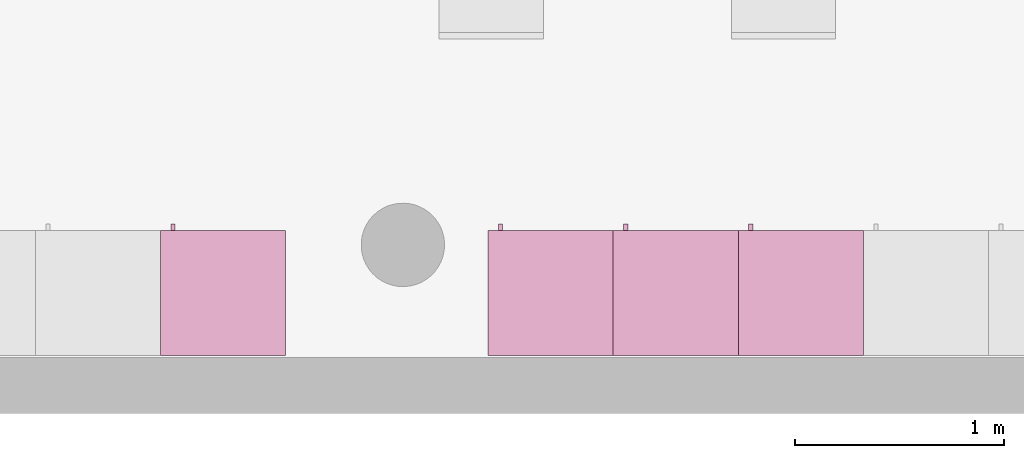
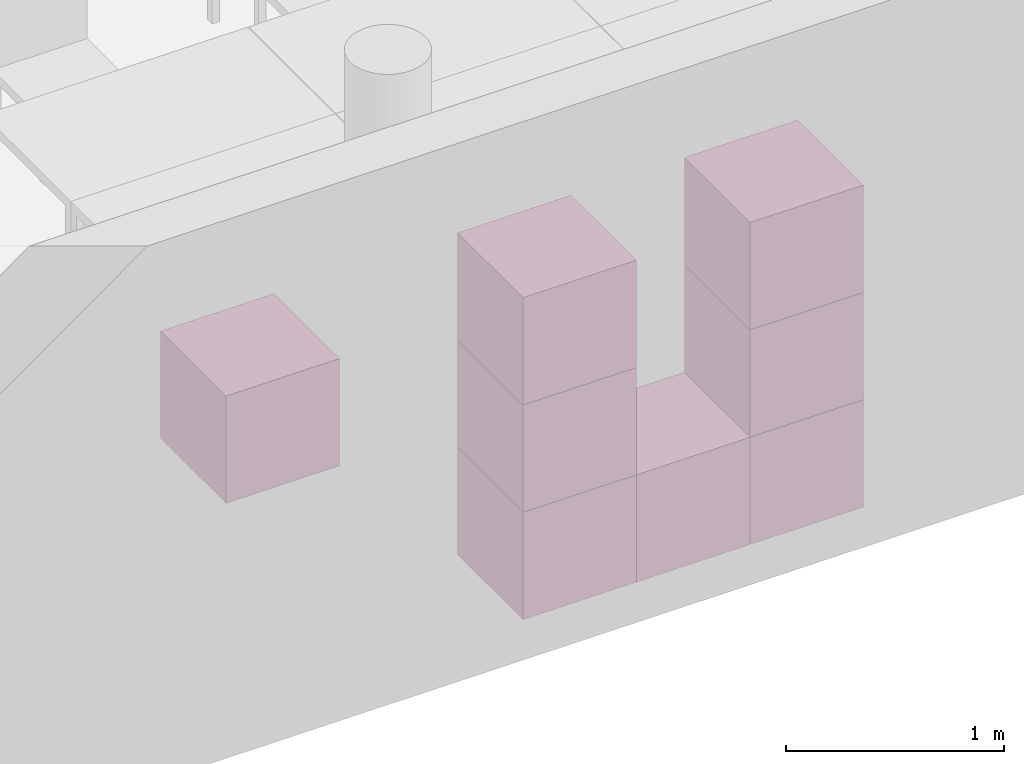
"""IFC4 building model written with IfcOpenShell, lengths in metres."""

from ifc_helpers import new_model, entity, si_unit, converted_unit, derived_unit, frame, origin, place, context, subcontext, project, spatial, faceted_brep, element, save


model = new_model("IFC4")

# Units and contexts
model_context = context("Model", 3, precision=1e-05, world=origin())
body_context = subcontext(model_context, "Body", "Model", "MODEL_VIEW")
ifc_project = project(units=[si_unit("LENGTHUNIT", "METRE"), si_unit("AREAUNIT", "SQUARE_METRE"), si_unit("VOLUMEUNIT", "CUBIC_METRE"), si_unit("MASSUNIT", "GRAM", prefix="KILO"), converted_unit("PLANEANGLEUNIT", "DEGREE", entity("IfcPlaneAngleMeasure", 0.0174532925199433), si_unit("PLANEANGLEUNIT", "RADIAN"), dimensions=[0, 0, 0, 0, 0, 0, 0]), derived_unit("THERMALTRANSMITTANCEUNIT", [(si_unit("POWERUNIT", "WATT"), 1), (si_unit("THERMODYNAMICTEMPERATUREUNIT", "KELVIN"), -1), (si_unit("LENGTHUNIT", "METRE"), -2)]), derived_unit("VOLUMETRICFLOWRATEUNIT", [(si_unit("LENGTHUNIT", "METRE"), 3), (converted_unit("TIMEUNIT", "hour", entity("IfcTimeMeasure", 3600.0), si_unit("TIMEUNIT", "SECOND"), dimensions=[0, 0, 1, 0, 0, 0, 0]), -1), (si_unit("LENGTHUNIT", "METRE"), -1)])], contexts=[model_context])

# Building, storeys
building_placement = place(None, origin())
building = spatial("IfcBuilding", under=ifc_project, at=building_placement, Name="HABITATGE PLURIFAMILIAR", CompositionType="ELEMENT")
storey_1_placement = place(building_placement, frame((0.0, 0.0, 15.28)))
storey_1 = spatial("IfcBuildingStorey", under=building, at=storey_1_placement, Name="PLANTA QUARTA", CompositionType="ELEMENT", Elevation=15.28)
storey_2_placement = place(storey_1_placement, frame((0.0, 0.0, 12.27)))
storey_2 = spatial("IfcBuildingStorey", under=storey_1, at=storey_2_placement, Name="NOU", CompositionType="PARTIAL")

# Furniture
furniture_1_placement = place(storey_2_placement, frame((402.59527037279, 13.1194598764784, -12.37)))
element("IfcFurniture", 1, at=furniture_1_placement, inside=storey_2, Name="Armai 60x60x60_P4", context=body_context, shape_type="Brep", body=[
    faceted_brep([(0.0, 0.6, 0.02), (0.0, 0.6, 0.0), (0.6, 0.6, 0.0), (0.6, 0.6, 0.02), (0.6, 0.0, 0.0), (0.6, 0.0, 0.02), (0.0, 0.0, 0.0), (0.0, 0.0, 0.02)], [[[0, 1, 2, 3]], [[3, 2, 4, 5]], [[5, 4, 6, 7]], [[7, 6, 1, 0]], [[0, 3, 5, 7]], [[1, 6, 4, 2]]], orient=[[False], [False], [False], [False], [False], [False]]),
    faceted_brep([(0.580000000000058, 0.0, 0.58), (0.580000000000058, 0.0200000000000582, 0.58), (0.580000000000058, 0.0200000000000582, 0.02), (0.580000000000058, 0.0, 0.02), (0.0200000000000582, 0.0200000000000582, 0.02), (0.0200000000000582, 0.0, 0.02), (0.0200000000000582, 0.0200000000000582, 0.58), (0.0200000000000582, 0.0, 0.58)], [[[0, 1, 2, 3]], [[3, 2, 4, 5]], [[5, 4, 6, 7]], [[7, 6, 1, 0]], [[0, 3, 5, 7]], [[1, 6, 4, 2]]], orient=[[False], [False], [False], [False], [False], [False]]),
    faceted_brep([(0.0200000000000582, 0.6, 0.58), (0.0, 0.6, 0.58), (0.0, 0.6, 0.02), (0.0200000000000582, 0.6, 0.02), (0.0, 0.0, 0.02), (0.0200000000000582, 0.0, 0.02), (0.0, 0.0, 0.58), (0.0200000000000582, 0.0, 0.58)], [[[0, 1, 2, 3]], [[3, 2, 4, 5]], [[5, 4, 6, 7]], [[7, 6, 1, 0]], [[0, 3, 5, 7]], [[1, 6, 4, 2]]], orient=[[False], [False], [False], [False], [False], [False]]),
    faceted_brep([(0.0, 0.58, 0.58), (0.0, 0.6, 0.58), (0.0, 0.6, 0.02), (0.0, 0.58, 0.02), (0.02, 0.6, 0.02), (0.02, 0.58, 0.02), (0.02, 0.6, 0.58), (0.02, 0.58, 0.58)], [[[0, 1, 2, 3]], [[3, 2, 4, 5]], [[5, 4, 6, 7]], [[7, 6, 1, 0]], [[0, 3, 5, 7]], [[1, 6, 4, 2]]], orient=[[False], [False], [False], [False], [False], [False]]),
    faceted_brep([(0.6, 0.6, 0.58), (0.58, 0.6, 0.58), (0.58, 0.6, 0.02), (0.6, 0.6, 0.02), (0.58, 0.0, 0.02), (0.6, 0.0, 0.02), (0.58, 0.0, 0.58), (0.6, 0.0, 0.58)], [[[0, 1, 2, 3]], [[3, 2, 4, 5]], [[5, 4, 6, 7]], [[7, 6, 1, 0]], [[0, 3, 5, 7]], [[1, 6, 4, 2]]], orient=[[False], [False], [False], [False], [False], [False]]),
    faceted_brep([(0.0, 0.600000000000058, 0.6), (0.0, 0.600000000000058, 0.58), (0.600000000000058, 0.600000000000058, 0.58), (0.600000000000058, 0.600000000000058, 0.6), (0.600000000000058, 0.0, 0.58), (0.600000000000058, 0.0, 0.6), (0.0, 0.0, 0.58), (0.0, 0.0, 0.6)], [[[0, 1, 2, 3]], [[3, 2, 4, 5]], [[5, 4, 6, 7]], [[7, 6, 1, 0]], [[0, 3, 5, 7]], [[1, 6, 4, 2]]], orient=[[False], [False], [False], [False], [False], [False]]),
    faceted_brep([(0.580000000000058, 0.580000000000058, 0.58), (0.580000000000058, 0.600000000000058, 0.58), (0.580000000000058, 0.600000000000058, 0.02), (0.580000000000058, 0.580000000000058, 0.02), (0.02, 0.600000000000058, 0.02), (0.02, 0.580000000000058, 0.02), (0.02, 0.600000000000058, 0.58), (0.02, 0.580000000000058, 0.58)], [[[0, 1, 2, 3]], [[3, 2, 4, 5]], [[5, 4, 6, 7]], [[7, 6, 1, 0]], [[0, 3, 5, 7]], [[1, 6, 4, 2]]], orient=[[False], [False], [False], [False], [False], [False]]),
    faceted_brep([(0.0700000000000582, 0.600000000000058, 0.358064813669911), (0.0700000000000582, 0.630000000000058, 0.358064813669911), (0.0700000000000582, 0.630000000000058, 0.258064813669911), (0.0700000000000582, 0.600000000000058, 0.258064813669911), (0.0500000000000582, 0.630000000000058, 0.258064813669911), (0.0500000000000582, 0.600000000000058, 0.258064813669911), (0.0500000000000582, 0.630000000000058, 0.358064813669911), (0.0500000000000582, 0.600000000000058, 0.358064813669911)], [[[0, 1, 2, 3]], [[3, 2, 4, 5]], [[5, 4, 6, 7]], [[7, 6, 1, 0]], [[0, 3, 5, 7]], [[1, 6, 4, 2]]], orient=[[False], [False], [False], [False], [False], [False]]),
])
furniture_2_placement = place(storey_2_placement, frame((402.59527037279, 13.1194598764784, -11.77)))
element("IfcFurniture", 2, at=furniture_2_placement, inside=storey_2, Name="Armai 60x60x60_P4", context=body_context, shape_type="Brep", body=[
    faceted_brep([(0.0, 0.6, 0.02), (0.0, 0.6, 0.0), (0.6, 0.6, 0.0), (0.6, 0.6, 0.02), (0.6, 0.0, 0.0), (0.6, 0.0, 0.02), (0.0, 0.0, 0.0), (0.0, 0.0, 0.02)], [[[0, 1, 2, 3]], [[3, 2, 4, 5]], [[5, 4, 6, 7]], [[7, 6, 1, 0]], [[0, 3, 5, 7]], [[1, 6, 4, 2]]], orient=[[False], [False], [False], [False], [False], [False]]),
    faceted_brep([(0.580000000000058, 0.0, 0.58), (0.580000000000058, 0.0200000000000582, 0.58), (0.580000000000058, 0.0200000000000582, 0.02), (0.580000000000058, 0.0, 0.02), (0.0200000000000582, 0.0200000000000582, 0.02), (0.0200000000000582, 0.0, 0.02), (0.0200000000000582, 0.0200000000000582, 0.58), (0.0200000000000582, 0.0, 0.58)], [[[0, 1, 2, 3]], [[3, 2, 4, 5]], [[5, 4, 6, 7]], [[7, 6, 1, 0]], [[0, 3, 5, 7]], [[1, 6, 4, 2]]], orient=[[False], [False], [False], [False], [False], [False]]),
    faceted_brep([(0.0200000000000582, 0.6, 0.58), (0.0, 0.6, 0.58), (0.0, 0.6, 0.02), (0.0200000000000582, 0.6, 0.02), (0.0, 0.0, 0.02), (0.0200000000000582, 0.0, 0.02), (0.0, 0.0, 0.58), (0.0200000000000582, 0.0, 0.58)], [[[0, 1, 2, 3]], [[3, 2, 4, 5]], [[5, 4, 6, 7]], [[7, 6, 1, 0]], [[0, 3, 5, 7]], [[1, 6, 4, 2]]], orient=[[False], [False], [False], [False], [False], [False]]),
    faceted_brep([(0.0, 0.58, 0.58), (0.0, 0.6, 0.58), (0.0, 0.6, 0.02), (0.0, 0.58, 0.02), (0.02, 0.6, 0.02), (0.02, 0.58, 0.02), (0.02, 0.6, 0.58), (0.02, 0.58, 0.58)], [[[0, 1, 2, 3]], [[3, 2, 4, 5]], [[5, 4, 6, 7]], [[7, 6, 1, 0]], [[0, 3, 5, 7]], [[1, 6, 4, 2]]], orient=[[False], [False], [False], [False], [False], [False]]),
    faceted_brep([(0.6, 0.6, 0.58), (0.58, 0.6, 0.58), (0.58, 0.6, 0.02), (0.6, 0.6, 0.02), (0.58, 0.0, 0.02), (0.6, 0.0, 0.02), (0.58, 0.0, 0.58), (0.6, 0.0, 0.58)], [[[0, 1, 2, 3]], [[3, 2, 4, 5]], [[5, 4, 6, 7]], [[7, 6, 1, 0]], [[0, 3, 5, 7]], [[1, 6, 4, 2]]], orient=[[False], [False], [False], [False], [False], [False]]),
    faceted_brep([(0.0, 0.600000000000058, 0.6), (0.0, 0.600000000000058, 0.58), (0.600000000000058, 0.600000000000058, 0.58), (0.600000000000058, 0.600000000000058, 0.6), (0.600000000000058, 0.0, 0.58), (0.600000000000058, 0.0, 0.6), (0.0, 0.0, 0.58), (0.0, 0.0, 0.6)], [[[0, 1, 2, 3]], [[3, 2, 4, 5]], [[5, 4, 6, 7]], [[7, 6, 1, 0]], [[0, 3, 5, 7]], [[1, 6, 4, 2]]], orient=[[False], [False], [False], [False], [False], [False]]),
    faceted_brep([(0.580000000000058, 0.580000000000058, 0.58), (0.580000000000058, 0.600000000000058, 0.58), (0.580000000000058, 0.600000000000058, 0.02), (0.580000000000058, 0.580000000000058, 0.02), (0.02, 0.600000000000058, 0.02), (0.02, 0.580000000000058, 0.02), (0.02, 0.600000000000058, 0.58), (0.02, 0.580000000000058, 0.58)], [[[0, 1, 2, 3]], [[3, 2, 4, 5]], [[5, 4, 6, 7]], [[7, 6, 1, 0]], [[0, 3, 5, 7]], [[1, 6, 4, 2]]], orient=[[False], [False], [False], [False], [False], [False]]),
    faceted_brep([(0.0700000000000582, 0.600000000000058, 0.358064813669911), (0.0700000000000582, 0.630000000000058, 0.358064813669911), (0.0700000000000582, 0.630000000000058, 0.258064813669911), (0.0700000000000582, 0.600000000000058, 0.258064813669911), (0.0500000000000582, 0.630000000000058, 0.258064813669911), (0.0500000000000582, 0.600000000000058, 0.258064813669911), (0.0500000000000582, 0.630000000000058, 0.358064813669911), (0.0500000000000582, 0.600000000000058, 0.358064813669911)], [[[0, 1, 2, 3]], [[3, 2, 4, 5]], [[5, 4, 6, 7]], [[7, 6, 1, 0]], [[0, 3, 5, 7]], [[1, 6, 4, 2]]], orient=[[False], [False], [False], [False], [False], [False]]),
])
furniture_3_placement = place(storey_2_placement, frame((402.59527037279, 13.1194598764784, -11.17)))
element("IfcFurniture", 3, at=furniture_3_placement, inside=storey_2, Name="Armai 60x60x60_P4", context=body_context, shape_type="Brep", body=[
    faceted_brep([(0.0, 0.6, 0.02), (0.0, 0.6, 0.0), (0.6, 0.6, 0.0), (0.6, 0.6, 0.02), (0.6, 0.0, 0.0), (0.6, 0.0, 0.02), (0.0, 0.0, 0.0), (0.0, 0.0, 0.02)], [[[0, 1, 2, 3]], [[3, 2, 4, 5]], [[5, 4, 6, 7]], [[7, 6, 1, 0]], [[0, 3, 5, 7]], [[1, 6, 4, 2]]], orient=[[False], [False], [False], [False], [False], [False]]),
    faceted_brep([(0.580000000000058, 0.0, 0.58), (0.580000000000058, 0.0200000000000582, 0.58), (0.580000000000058, 0.0200000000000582, 0.02), (0.580000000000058, 0.0, 0.02), (0.0200000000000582, 0.0200000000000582, 0.02), (0.0200000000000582, 0.0, 0.02), (0.0200000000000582, 0.0200000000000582, 0.58), (0.0200000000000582, 0.0, 0.58)], [[[0, 1, 2, 3]], [[3, 2, 4, 5]], [[5, 4, 6, 7]], [[7, 6, 1, 0]], [[0, 3, 5, 7]], [[1, 6, 4, 2]]], orient=[[False], [False], [False], [False], [False], [False]]),
    faceted_brep([(0.0200000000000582, 0.6, 0.58), (0.0, 0.6, 0.58), (0.0, 0.6, 0.02), (0.0200000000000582, 0.6, 0.02), (0.0, 0.0, 0.02), (0.0200000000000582, 0.0, 0.02), (0.0, 0.0, 0.58), (0.0200000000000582, 0.0, 0.58)], [[[0, 1, 2, 3]], [[3, 2, 4, 5]], [[5, 4, 6, 7]], [[7, 6, 1, 0]], [[0, 3, 5, 7]], [[1, 6, 4, 2]]], orient=[[False], [False], [False], [False], [False], [False]]),
    faceted_brep([(0.0, 0.58, 0.58), (0.0, 0.6, 0.58), (0.0, 0.6, 0.02), (0.0, 0.58, 0.02), (0.02, 0.6, 0.02), (0.02, 0.58, 0.02), (0.02, 0.6, 0.58), (0.02, 0.58, 0.58)], [[[0, 1, 2, 3]], [[3, 2, 4, 5]], [[5, 4, 6, 7]], [[7, 6, 1, 0]], [[0, 3, 5, 7]], [[1, 6, 4, 2]]], orient=[[False], [False], [False], [False], [False], [False]]),
    faceted_brep([(0.6, 0.6, 0.58), (0.58, 0.6, 0.58), (0.58, 0.6, 0.02), (0.6, 0.6, 0.02), (0.58, 0.0, 0.02), (0.6, 0.0, 0.02), (0.58, 0.0, 0.58), (0.6, 0.0, 0.58)], [[[0, 1, 2, 3]], [[3, 2, 4, 5]], [[5, 4, 6, 7]], [[7, 6, 1, 0]], [[0, 3, 5, 7]], [[1, 6, 4, 2]]], orient=[[False], [False], [False], [False], [False], [False]]),
    faceted_brep([(0.0, 0.600000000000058, 0.6), (0.0, 0.600000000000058, 0.58), (0.600000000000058, 0.600000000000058, 0.58), (0.600000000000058, 0.600000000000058, 0.6), (0.600000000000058, 0.0, 0.58), (0.600000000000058, 0.0, 0.6), (0.0, 0.0, 0.58), (0.0, 0.0, 0.6)], [[[0, 1, 2, 3]], [[3, 2, 4, 5]], [[5, 4, 6, 7]], [[7, 6, 1, 0]], [[0, 3, 5, 7]], [[1, 6, 4, 2]]], orient=[[False], [False], [False], [False], [False], [False]]),
    faceted_brep([(0.580000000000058, 0.580000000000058, 0.58), (0.580000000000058, 0.600000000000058, 0.58), (0.580000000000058, 0.600000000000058, 0.02), (0.580000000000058, 0.580000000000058, 0.02), (0.02, 0.600000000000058, 0.02), (0.02, 0.580000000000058, 0.02), (0.02, 0.600000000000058, 0.58), (0.02, 0.580000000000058, 0.58)], [[[0, 1, 2, 3]], [[3, 2, 4, 5]], [[5, 4, 6, 7]], [[7, 6, 1, 0]], [[0, 3, 5, 7]], [[1, 6, 4, 2]]], orient=[[False], [False], [False], [False], [False], [False]]),
    faceted_brep([(0.0700000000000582, 0.600000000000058, 0.358064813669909), (0.0700000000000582, 0.630000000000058, 0.358064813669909), (0.0700000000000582, 0.630000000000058, 0.258064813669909), (0.0700000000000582, 0.600000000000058, 0.258064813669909), (0.0500000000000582, 0.630000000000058, 0.258064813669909), (0.0500000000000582, 0.600000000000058, 0.258064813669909), (0.0500000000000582, 0.630000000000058, 0.358064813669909), (0.0500000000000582, 0.600000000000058, 0.358064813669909)], [[[0, 1, 2, 3]], [[3, 2, 4, 5]], [[5, 4, 6, 7]], [[7, 6, 1, 0]], [[0, 3, 5, 7]], [[1, 6, 4, 2]]], orient=[[False], [False], [False], [False], [False], [False]]),
])
furniture_4_placement = place(storey_2_placement, frame((401.99527037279, 13.1194598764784, -12.37)))
element("IfcFurniture", 4, at=furniture_4_placement, inside=storey_2, Name="Armai 60x60x60_P4", context=body_context, shape_type="Brep", body=[
    faceted_brep([(0.0, 0.6, 0.02), (0.0, 0.6, 0.0), (0.6, 0.6, 0.0), (0.6, 0.6, 0.02), (0.6, 0.0, 0.0), (0.6, 0.0, 0.02), (0.0, 0.0, 0.0), (0.0, 0.0, 0.02)], [[[0, 1, 2, 3]], [[3, 2, 4, 5]], [[5, 4, 6, 7]], [[7, 6, 1, 0]], [[0, 3, 5, 7]], [[1, 6, 4, 2]]], orient=[[False], [False], [False], [False], [False], [False]]),
    faceted_brep([(0.580000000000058, 0.0, 0.58), (0.580000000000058, 0.0200000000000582, 0.58), (0.580000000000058, 0.0200000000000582, 0.02), (0.580000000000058, 0.0, 0.02), (0.0200000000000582, 0.0200000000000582, 0.02), (0.0200000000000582, 0.0, 0.02), (0.0200000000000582, 0.0200000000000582, 0.58), (0.0200000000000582, 0.0, 0.58)], [[[0, 1, 2, 3]], [[3, 2, 4, 5]], [[5, 4, 6, 7]], [[7, 6, 1, 0]], [[0, 3, 5, 7]], [[1, 6, 4, 2]]], orient=[[False], [False], [False], [False], [False], [False]]),
    faceted_brep([(0.0200000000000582, 0.6, 0.58), (0.0, 0.6, 0.58), (0.0, 0.6, 0.02), (0.0200000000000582, 0.6, 0.02), (0.0, 0.0, 0.02), (0.0200000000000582, 0.0, 0.02), (0.0, 0.0, 0.58), (0.0200000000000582, 0.0, 0.58)], [[[0, 1, 2, 3]], [[3, 2, 4, 5]], [[5, 4, 6, 7]], [[7, 6, 1, 0]], [[0, 3, 5, 7]], [[1, 6, 4, 2]]], orient=[[False], [False], [False], [False], [False], [False]]),
    faceted_brep([(0.0, 0.58, 0.58), (0.0, 0.6, 0.58), (0.0, 0.6, 0.02), (0.0, 0.58, 0.02), (0.02, 0.6, 0.02), (0.02, 0.58, 0.02), (0.02, 0.6, 0.58), (0.02, 0.58, 0.58)], [[[0, 1, 2, 3]], [[3, 2, 4, 5]], [[5, 4, 6, 7]], [[7, 6, 1, 0]], [[0, 3, 5, 7]], [[1, 6, 4, 2]]], orient=[[False], [False], [False], [False], [False], [False]]),
    faceted_brep([(0.6, 0.6, 0.58), (0.58, 0.6, 0.58), (0.58, 0.6, 0.02), (0.6, 0.6, 0.02), (0.58, 0.0, 0.02), (0.6, 0.0, 0.02), (0.58, 0.0, 0.58), (0.6, 0.0, 0.58)], [[[0, 1, 2, 3]], [[3, 2, 4, 5]], [[5, 4, 6, 7]], [[7, 6, 1, 0]], [[0, 3, 5, 7]], [[1, 6, 4, 2]]], orient=[[False], [False], [False], [False], [False], [False]]),
    faceted_brep([(0.0, 0.600000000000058, 0.6), (0.0, 0.600000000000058, 0.58), (0.600000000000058, 0.600000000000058, 0.58), (0.600000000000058, 0.600000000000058, 0.6), (0.600000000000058, 0.0, 0.58), (0.600000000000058, 0.0, 0.6), (0.0, 0.0, 0.58), (0.0, 0.0, 0.6)], [[[0, 1, 2, 3]], [[3, 2, 4, 5]], [[5, 4, 6, 7]], [[7, 6, 1, 0]], [[0, 3, 5, 7]], [[1, 6, 4, 2]]], orient=[[False], [False], [False], [False], [False], [False]]),
    faceted_brep([(0.580000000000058, 0.580000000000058, 0.58), (0.580000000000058, 0.600000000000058, 0.58), (0.580000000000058, 0.600000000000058, 0.02), (0.580000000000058, 0.580000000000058, 0.02), (0.02, 0.600000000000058, 0.02), (0.02, 0.580000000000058, 0.02), (0.02, 0.600000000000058, 0.58), (0.02, 0.580000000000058, 0.58)], [[[0, 1, 2, 3]], [[3, 2, 4, 5]], [[5, 4, 6, 7]], [[7, 6, 1, 0]], [[0, 3, 5, 7]], [[1, 6, 4, 2]]], orient=[[False], [False], [False], [False], [False], [False]]),
    faceted_brep([(0.0700000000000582, 0.600000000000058, 0.358064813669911), (0.0700000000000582, 0.630000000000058, 0.358064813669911), (0.0700000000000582, 0.630000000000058, 0.258064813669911), (0.0700000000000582, 0.600000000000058, 0.258064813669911), (0.0500000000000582, 0.630000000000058, 0.258064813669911), (0.0500000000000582, 0.600000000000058, 0.258064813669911), (0.0500000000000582, 0.630000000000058, 0.358064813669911), (0.0500000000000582, 0.600000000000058, 0.358064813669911)], [[[0, 1, 2, 3]], [[3, 2, 4, 5]], [[5, 4, 6, 7]], [[7, 6, 1, 0]], [[0, 3, 5, 7]], [[1, 6, 4, 2]]], orient=[[False], [False], [False], [False], [False], [False]]),
])
furniture_5_placement = place(storey_2_placement, frame((401.39527037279, 13.1194598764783, -12.37)))
element("IfcFurniture", 5, at=furniture_5_placement, inside=storey_2, Name="Armai 60x60x60_P4", context=body_context, shape_type="Brep", body=[
    faceted_brep([(0.0, 0.6, 0.02), (0.0, 0.6, 0.0), (0.6, 0.6, 0.0), (0.6, 0.6, 0.02), (0.6, 0.0, 0.0), (0.6, 0.0, 0.02), (0.0, 0.0, 0.0), (0.0, 0.0, 0.02)], [[[0, 1, 2, 3]], [[3, 2, 4, 5]], [[5, 4, 6, 7]], [[7, 6, 1, 0]], [[0, 3, 5, 7]], [[1, 6, 4, 2]]], orient=[[False], [False], [False], [False], [False], [False]]),
    faceted_brep([(0.580000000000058, 0.0, 0.58), (0.580000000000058, 0.0200000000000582, 0.58), (0.580000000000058, 0.0200000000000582, 0.02), (0.580000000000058, 0.0, 0.02), (0.0200000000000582, 0.0200000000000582, 0.02), (0.0200000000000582, 0.0, 0.02), (0.0200000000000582, 0.0200000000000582, 0.58), (0.0200000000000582, 0.0, 0.58)], [[[0, 1, 2, 3]], [[3, 2, 4, 5]], [[5, 4, 6, 7]], [[7, 6, 1, 0]], [[0, 3, 5, 7]], [[1, 6, 4, 2]]], orient=[[False], [False], [False], [False], [False], [False]]),
    faceted_brep([(0.0200000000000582, 0.6, 0.58), (0.0, 0.6, 0.58), (0.0, 0.6, 0.02), (0.0200000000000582, 0.6, 0.02), (0.0, 0.0, 0.02), (0.0200000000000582, 0.0, 0.02), (0.0, 0.0, 0.58), (0.0200000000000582, 0.0, 0.58)], [[[0, 1, 2, 3]], [[3, 2, 4, 5]], [[5, 4, 6, 7]], [[7, 6, 1, 0]], [[0, 3, 5, 7]], [[1, 6, 4, 2]]], orient=[[False], [False], [False], [False], [False], [False]]),
    faceted_brep([(0.0, 0.58, 0.58), (0.0, 0.6, 0.58), (0.0, 0.6, 0.02), (0.0, 0.58, 0.02), (0.02, 0.6, 0.02), (0.02, 0.58, 0.02), (0.02, 0.6, 0.58), (0.02, 0.58, 0.58)], [[[0, 1, 2, 3]], [[3, 2, 4, 5]], [[5, 4, 6, 7]], [[7, 6, 1, 0]], [[0, 3, 5, 7]], [[1, 6, 4, 2]]], orient=[[False], [False], [False], [False], [False], [False]]),
    faceted_brep([(0.6, 0.6, 0.58), (0.58, 0.6, 0.58), (0.58, 0.6, 0.02), (0.6, 0.6, 0.02), (0.58, 0.0, 0.02), (0.6, 0.0, 0.02), (0.58, 0.0, 0.58), (0.6, 0.0, 0.58)], [[[0, 1, 2, 3]], [[3, 2, 4, 5]], [[5, 4, 6, 7]], [[7, 6, 1, 0]], [[0, 3, 5, 7]], [[1, 6, 4, 2]]], orient=[[False], [False], [False], [False], [False], [False]]),
    faceted_brep([(0.0, 0.600000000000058, 0.6), (0.0, 0.600000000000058, 0.58), (0.600000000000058, 0.600000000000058, 0.58), (0.600000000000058, 0.600000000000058, 0.6), (0.600000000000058, 0.0, 0.58), (0.600000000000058, 0.0, 0.6), (0.0, 0.0, 0.58), (0.0, 0.0, 0.6)], [[[0, 1, 2, 3]], [[3, 2, 4, 5]], [[5, 4, 6, 7]], [[7, 6, 1, 0]], [[0, 3, 5, 7]], [[1, 6, 4, 2]]], orient=[[False], [False], [False], [False], [False], [False]]),
    faceted_brep([(0.580000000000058, 0.580000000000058, 0.58), (0.580000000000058, 0.600000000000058, 0.58), (0.580000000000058, 0.600000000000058, 0.02), (0.580000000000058, 0.580000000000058, 0.02), (0.02, 0.600000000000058, 0.02), (0.02, 0.580000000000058, 0.02), (0.02, 0.600000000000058, 0.58), (0.02, 0.580000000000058, 0.58)], [[[0, 1, 2, 3]], [[3, 2, 4, 5]], [[5, 4, 6, 7]], [[7, 6, 1, 0]], [[0, 3, 5, 7]], [[1, 6, 4, 2]]], orient=[[False], [False], [False], [False], [False], [False]]),
    faceted_brep([(0.0700000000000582, 0.600000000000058, 0.358064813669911), (0.0700000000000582, 0.630000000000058, 0.358064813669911), (0.0700000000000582, 0.630000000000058, 0.258064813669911), (0.0700000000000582, 0.600000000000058, 0.258064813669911), (0.0500000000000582, 0.630000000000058, 0.258064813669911), (0.0500000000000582, 0.600000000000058, 0.258064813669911), (0.0500000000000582, 0.630000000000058, 0.358064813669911), (0.0500000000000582, 0.600000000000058, 0.358064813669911)], [[[0, 1, 2, 3]], [[3, 2, 4, 5]], [[5, 4, 6, 7]], [[7, 6, 1, 0]], [[0, 3, 5, 7]], [[1, 6, 4, 2]]], orient=[[False], [False], [False], [False], [False], [False]]),
])
furniture_6_placement = place(storey_2_placement, frame((401.39527037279, 13.1194598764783, -11.77)))
element("IfcFurniture", 6, at=furniture_6_placement, inside=storey_2, Name="Armai 60x60x60_P4", context=body_context, shape_type="Brep", body=[
    faceted_brep([(0.0, 0.6, 0.02), (0.0, 0.6, 0.0), (0.6, 0.6, 0.0), (0.6, 0.6, 0.02), (0.6, 0.0, 0.0), (0.6, 0.0, 0.02), (0.0, 0.0, 0.0), (0.0, 0.0, 0.02)], [[[0, 1, 2, 3]], [[3, 2, 4, 5]], [[5, 4, 6, 7]], [[7, 6, 1, 0]], [[0, 3, 5, 7]], [[1, 6, 4, 2]]], orient=[[False], [False], [False], [False], [False], [False]]),
    faceted_brep([(0.580000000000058, 0.0, 0.58), (0.580000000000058, 0.0200000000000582, 0.58), (0.580000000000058, 0.0200000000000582, 0.02), (0.580000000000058, 0.0, 0.02), (0.0200000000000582, 0.0200000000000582, 0.02), (0.0200000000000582, 0.0, 0.02), (0.0200000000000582, 0.0200000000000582, 0.58), (0.0200000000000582, 0.0, 0.58)], [[[0, 1, 2, 3]], [[3, 2, 4, 5]], [[5, 4, 6, 7]], [[7, 6, 1, 0]], [[0, 3, 5, 7]], [[1, 6, 4, 2]]], orient=[[False], [False], [False], [False], [False], [False]]),
    faceted_brep([(0.0200000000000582, 0.6, 0.58), (0.0, 0.6, 0.58), (0.0, 0.6, 0.02), (0.0200000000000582, 0.6, 0.02), (0.0, 0.0, 0.02), (0.0200000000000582, 0.0, 0.02), (0.0, 0.0, 0.58), (0.0200000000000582, 0.0, 0.58)], [[[0, 1, 2, 3]], [[3, 2, 4, 5]], [[5, 4, 6, 7]], [[7, 6, 1, 0]], [[0, 3, 5, 7]], [[1, 6, 4, 2]]], orient=[[False], [False], [False], [False], [False], [False]]),
    faceted_brep([(0.0, 0.58, 0.58), (0.0, 0.6, 0.58), (0.0, 0.6, 0.02), (0.0, 0.58, 0.02), (0.02, 0.6, 0.02), (0.02, 0.58, 0.02), (0.02, 0.6, 0.58), (0.02, 0.58, 0.58)], [[[0, 1, 2, 3]], [[3, 2, 4, 5]], [[5, 4, 6, 7]], [[7, 6, 1, 0]], [[0, 3, 5, 7]], [[1, 6, 4, 2]]], orient=[[False], [False], [False], [False], [False], [False]]),
    faceted_brep([(0.6, 0.6, 0.58), (0.58, 0.6, 0.58), (0.58, 0.6, 0.02), (0.6, 0.6, 0.02), (0.58, 0.0, 0.02), (0.6, 0.0, 0.02), (0.58, 0.0, 0.58), (0.6, 0.0, 0.58)], [[[0, 1, 2, 3]], [[3, 2, 4, 5]], [[5, 4, 6, 7]], [[7, 6, 1, 0]], [[0, 3, 5, 7]], [[1, 6, 4, 2]]], orient=[[False], [False], [False], [False], [False], [False]]),
    faceted_brep([(0.0, 0.600000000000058, 0.6), (0.0, 0.600000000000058, 0.58), (0.600000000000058, 0.600000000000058, 0.58), (0.600000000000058, 0.600000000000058, 0.6), (0.600000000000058, 0.0, 0.58), (0.600000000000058, 0.0, 0.6), (0.0, 0.0, 0.58), (0.0, 0.0, 0.6)], [[[0, 1, 2, 3]], [[3, 2, 4, 5]], [[5, 4, 6, 7]], [[7, 6, 1, 0]], [[0, 3, 5, 7]], [[1, 6, 4, 2]]], orient=[[False], [False], [False], [False], [False], [False]]),
    faceted_brep([(0.580000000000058, 0.580000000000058, 0.58), (0.580000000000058, 0.600000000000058, 0.58), (0.580000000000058, 0.600000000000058, 0.02), (0.580000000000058, 0.580000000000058, 0.02), (0.02, 0.600000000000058, 0.02), (0.02, 0.580000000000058, 0.02), (0.02, 0.600000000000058, 0.58), (0.02, 0.580000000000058, 0.58)], [[[0, 1, 2, 3]], [[3, 2, 4, 5]], [[5, 4, 6, 7]], [[7, 6, 1, 0]], [[0, 3, 5, 7]], [[1, 6, 4, 2]]], orient=[[False], [False], [False], [False], [False], [False]]),
    faceted_brep([(0.0700000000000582, 0.600000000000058, 0.358064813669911), (0.0700000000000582, 0.630000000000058, 0.358064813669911), (0.0700000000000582, 0.630000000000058, 0.258064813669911), (0.0700000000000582, 0.600000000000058, 0.258064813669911), (0.0500000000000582, 0.630000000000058, 0.258064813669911), (0.0500000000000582, 0.600000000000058, 0.258064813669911), (0.0500000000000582, 0.630000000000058, 0.358064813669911), (0.0500000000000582, 0.600000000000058, 0.358064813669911)], [[[0, 1, 2, 3]], [[3, 2, 4, 5]], [[5, 4, 6, 7]], [[7, 6, 1, 0]], [[0, 3, 5, 7]], [[1, 6, 4, 2]]], orient=[[False], [False], [False], [False], [False], [False]]),
])
furniture_7_placement = place(storey_2_placement, frame((401.39527037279, 13.1194598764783, -11.17)))
element("IfcFurniture", 7, at=furniture_7_placement, inside=storey_2, Name="Armai 60x60x60_P4", context=body_context, shape_type="Brep", body=[
    faceted_brep([(0.0, 0.6, 0.02), (0.0, 0.6, 0.0), (0.6, 0.6, 0.0), (0.6, 0.6, 0.02), (0.6, 0.0, 0.0), (0.6, 0.0, 0.02), (0.0, 0.0, 0.0), (0.0, 0.0, 0.02)], [[[0, 1, 2, 3]], [[3, 2, 4, 5]], [[5, 4, 6, 7]], [[7, 6, 1, 0]], [[0, 3, 5, 7]], [[1, 6, 4, 2]]], orient=[[False], [False], [False], [False], [False], [False]]),
    faceted_brep([(0.580000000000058, 0.0, 0.58), (0.580000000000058, 0.0200000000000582, 0.58), (0.580000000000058, 0.0200000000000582, 0.02), (0.580000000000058, 0.0, 0.02), (0.0200000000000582, 0.0200000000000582, 0.02), (0.0200000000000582, 0.0, 0.02), (0.0200000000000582, 0.0200000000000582, 0.58), (0.0200000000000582, 0.0, 0.58)], [[[0, 1, 2, 3]], [[3, 2, 4, 5]], [[5, 4, 6, 7]], [[7, 6, 1, 0]], [[0, 3, 5, 7]], [[1, 6, 4, 2]]], orient=[[False], [False], [False], [False], [False], [False]]),
    faceted_brep([(0.0200000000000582, 0.6, 0.58), (0.0, 0.6, 0.58), (0.0, 0.6, 0.02), (0.0200000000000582, 0.6, 0.02), (0.0, 0.0, 0.02), (0.0200000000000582, 0.0, 0.02), (0.0, 0.0, 0.58), (0.0200000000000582, 0.0, 0.58)], [[[0, 1, 2, 3]], [[3, 2, 4, 5]], [[5, 4, 6, 7]], [[7, 6, 1, 0]], [[0, 3, 5, 7]], [[1, 6, 4, 2]]], orient=[[False], [False], [False], [False], [False], [False]]),
    faceted_brep([(0.0, 0.58, 0.58), (0.0, 0.6, 0.58), (0.0, 0.6, 0.02), (0.0, 0.58, 0.02), (0.02, 0.6, 0.02), (0.02, 0.58, 0.02), (0.02, 0.6, 0.58), (0.02, 0.58, 0.58)], [[[0, 1, 2, 3]], [[3, 2, 4, 5]], [[5, 4, 6, 7]], [[7, 6, 1, 0]], [[0, 3, 5, 7]], [[1, 6, 4, 2]]], orient=[[False], [False], [False], [False], [False], [False]]),
    faceted_brep([(0.6, 0.6, 0.58), (0.58, 0.6, 0.58), (0.58, 0.6, 0.02), (0.6, 0.6, 0.02), (0.58, 0.0, 0.02), (0.6, 0.0, 0.02), (0.58, 0.0, 0.58), (0.6, 0.0, 0.58)], [[[0, 1, 2, 3]], [[3, 2, 4, 5]], [[5, 4, 6, 7]], [[7, 6, 1, 0]], [[0, 3, 5, 7]], [[1, 6, 4, 2]]], orient=[[False], [False], [False], [False], [False], [False]]),
    faceted_brep([(0.0, 0.600000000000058, 0.6), (0.0, 0.600000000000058, 0.58), (0.600000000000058, 0.600000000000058, 0.58), (0.600000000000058, 0.600000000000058, 0.6), (0.600000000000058, 0.0, 0.58), (0.600000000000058, 0.0, 0.6), (0.0, 0.0, 0.58), (0.0, 0.0, 0.6)], [[[0, 1, 2, 3]], [[3, 2, 4, 5]], [[5, 4, 6, 7]], [[7, 6, 1, 0]], [[0, 3, 5, 7]], [[1, 6, 4, 2]]], orient=[[False], [False], [False], [False], [False], [False]]),
    faceted_brep([(0.580000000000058, 0.580000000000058, 0.58), (0.580000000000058, 0.600000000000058, 0.58), (0.580000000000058, 0.600000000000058, 0.02), (0.580000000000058, 0.580000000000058, 0.02), (0.02, 0.600000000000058, 0.02), (0.02, 0.580000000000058, 0.02), (0.02, 0.600000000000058, 0.58), (0.02, 0.580000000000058, 0.58)], [[[0, 1, 2, 3]], [[3, 2, 4, 5]], [[5, 4, 6, 7]], [[7, 6, 1, 0]], [[0, 3, 5, 7]], [[1, 6, 4, 2]]], orient=[[False], [False], [False], [False], [False], [False]]),
    faceted_brep([(0.0700000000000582, 0.600000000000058, 0.358064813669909), (0.0700000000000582, 0.630000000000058, 0.358064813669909), (0.0700000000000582, 0.630000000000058, 0.258064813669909), (0.0700000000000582, 0.600000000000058, 0.258064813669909), (0.0500000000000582, 0.630000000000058, 0.258064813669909), (0.0500000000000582, 0.600000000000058, 0.258064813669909), (0.0500000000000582, 0.630000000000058, 0.358064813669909), (0.0500000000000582, 0.600000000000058, 0.358064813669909)], [[[0, 1, 2, 3]], [[3, 2, 4, 5]], [[5, 4, 6, 7]], [[7, 6, 1, 0]], [[0, 3, 5, 7]], [[1, 6, 4, 2]]], orient=[[False], [False], [False], [False], [False], [False]]),
])
furniture_8_placement = place(storey_2_placement, frame((399.82527037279, 13.1194598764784, -11.17)))
element("IfcFurniture", 8, at=furniture_8_placement, inside=storey_2, Name="Armai 60x60x60_P4", context=body_context, shape_type="Brep", body=[
    faceted_brep([(0.0, 0.6, 0.02), (0.0, 0.6, 0.0), (0.6, 0.6, 0.0), (0.6, 0.6, 0.02), (0.6, 0.0, 0.0), (0.6, 0.0, 0.02), (0.0, 0.0, 0.0), (0.0, 0.0, 0.02)], [[[0, 1, 2, 3]], [[3, 2, 4, 5]], [[5, 4, 6, 7]], [[7, 6, 1, 0]], [[0, 3, 5, 7]], [[1, 6, 4, 2]]], orient=[[False], [False], [False], [False], [False], [False]]),
    faceted_brep([(0.580000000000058, 0.0, 0.58), (0.580000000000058, 0.0200000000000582, 0.58), (0.580000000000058, 0.0200000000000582, 0.02), (0.580000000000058, 0.0, 0.02), (0.0200000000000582, 0.0200000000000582, 0.02), (0.0200000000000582, 0.0, 0.02), (0.0200000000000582, 0.0200000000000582, 0.58), (0.0200000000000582, 0.0, 0.58)], [[[0, 1, 2, 3]], [[3, 2, 4, 5]], [[5, 4, 6, 7]], [[7, 6, 1, 0]], [[0, 3, 5, 7]], [[1, 6, 4, 2]]], orient=[[False], [False], [False], [False], [False], [False]]),
    faceted_brep([(0.0200000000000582, 0.6, 0.58), (0.0, 0.6, 0.58), (0.0, 0.6, 0.02), (0.0200000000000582, 0.6, 0.02), (0.0, 0.0, 0.02), (0.0200000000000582, 0.0, 0.02), (0.0, 0.0, 0.58), (0.0200000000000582, 0.0, 0.58)], [[[0, 1, 2, 3]], [[3, 2, 4, 5]], [[5, 4, 6, 7]], [[7, 6, 1, 0]], [[0, 3, 5, 7]], [[1, 6, 4, 2]]], orient=[[False], [False], [False], [False], [False], [False]]),
    faceted_brep([(0.0, 0.58, 0.58), (0.0, 0.6, 0.58), (0.0, 0.6, 0.02), (0.0, 0.58, 0.02), (0.02, 0.6, 0.02), (0.02, 0.58, 0.02), (0.02, 0.6, 0.58), (0.02, 0.58, 0.58)], [[[0, 1, 2, 3]], [[3, 2, 4, 5]], [[5, 4, 6, 7]], [[7, 6, 1, 0]], [[0, 3, 5, 7]], [[1, 6, 4, 2]]], orient=[[False], [False], [False], [False], [False], [False]]),
    faceted_brep([(0.6, 0.6, 0.58), (0.58, 0.6, 0.58), (0.58, 0.6, 0.02), (0.6, 0.6, 0.02), (0.58, 0.0, 0.02), (0.6, 0.0, 0.02), (0.58, 0.0, 0.58), (0.6, 0.0, 0.58)], [[[0, 1, 2, 3]], [[3, 2, 4, 5]], [[5, 4, 6, 7]], [[7, 6, 1, 0]], [[0, 3, 5, 7]], [[1, 6, 4, 2]]], orient=[[False], [False], [False], [False], [False], [False]]),
    faceted_brep([(0.0, 0.600000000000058, 0.6), (0.0, 0.600000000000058, 0.58), (0.600000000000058, 0.600000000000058, 0.58), (0.600000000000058, 0.600000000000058, 0.6), (0.600000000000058, 0.0, 0.58), (0.600000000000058, 0.0, 0.6), (0.0, 0.0, 0.58), (0.0, 0.0, 0.6)], [[[0, 1, 2, 3]], [[3, 2, 4, 5]], [[5, 4, 6, 7]], [[7, 6, 1, 0]], [[0, 3, 5, 7]], [[1, 6, 4, 2]]], orient=[[False], [False], [False], [False], [False], [False]]),
    faceted_brep([(0.580000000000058, 0.580000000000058, 0.58), (0.580000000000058, 0.600000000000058, 0.58), (0.580000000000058, 0.600000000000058, 0.02), (0.580000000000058, 0.580000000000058, 0.02), (0.02, 0.600000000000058, 0.02), (0.02, 0.580000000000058, 0.02), (0.02, 0.600000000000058, 0.58), (0.02, 0.580000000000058, 0.58)], [[[0, 1, 2, 3]], [[3, 2, 4, 5]], [[5, 4, 6, 7]], [[7, 6, 1, 0]], [[0, 3, 5, 7]], [[1, 6, 4, 2]]], orient=[[False], [False], [False], [False], [False], [False]]),
    faceted_brep([(0.0700000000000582, 0.600000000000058, 0.358064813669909), (0.0700000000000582, 0.630000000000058, 0.358064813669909), (0.0700000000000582, 0.630000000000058, 0.258064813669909), (0.0700000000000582, 0.600000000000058, 0.258064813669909), (0.0500000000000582, 0.630000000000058, 0.258064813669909), (0.0500000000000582, 0.600000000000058, 0.258064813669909), (0.0500000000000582, 0.630000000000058, 0.358064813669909), (0.0500000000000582, 0.600000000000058, 0.358064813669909)], [[[0, 1, 2, 3]], [[3, 2, 4, 5]], [[5, 4, 6, 7]], [[7, 6, 1, 0]], [[0, 3, 5, 7]], [[1, 6, 4, 2]]], orient=[[False], [False], [False], [False], [False], [False]]),
])

save(model, "model.ifc")
